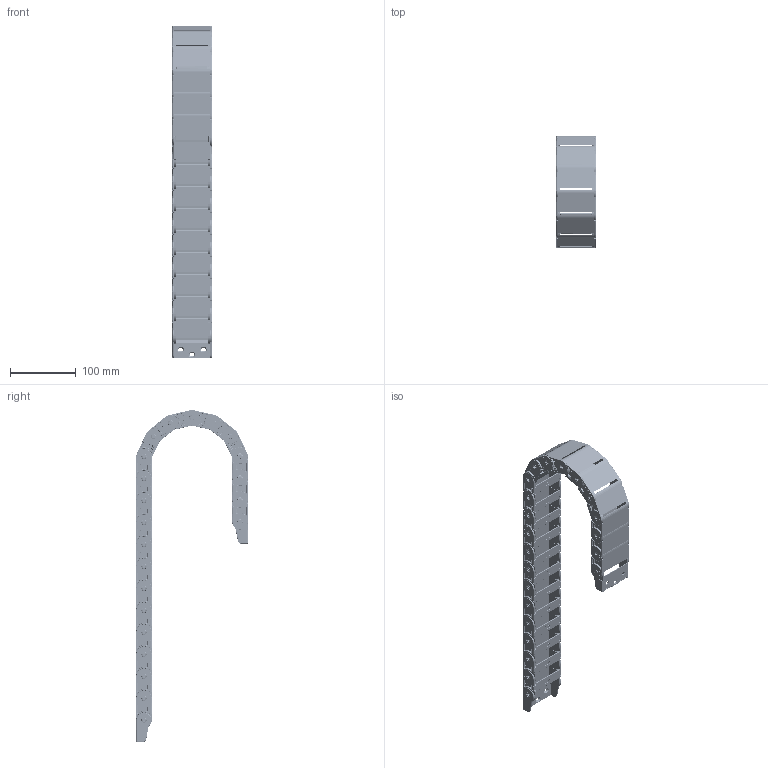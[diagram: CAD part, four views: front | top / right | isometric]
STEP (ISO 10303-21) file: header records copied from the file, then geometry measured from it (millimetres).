
FILE_DESCRIPTION (( 'STEP AP203' ), '1' );
FILE_NAME ('5-J18BF.1.50NR75-3D郪璃芞.STEP', '2016-12-16T06:57:32', ( 'china' ), ( 'china' ), 'SwSTEP 2.0', 'SolidWorks 2014', '' );
FILE_SCHEMA (( 'CONFIG_CONTROL_DESIGN' ));
Length unit declared in the file: millimetre
Products named in the file (6): 18BFX50-FW翋极芞; J18BF-1-50N-DP; 18X50BF-FW-1; J18BF.1.50XJT-N-FW; J18BF.1.50XJT-W-FW; 5-J18BF.1.50NR75-3D郪璃芞
Assembly tree (25 placements, depth 3):
  5-J18BF.1.50NR75-3D郪璃芞
    18X50BF-FW-1  x21
      18BFX50-FW翋极芞
      J18BF-1-50N-DP
    J18BF.1.50XJT-N-FW
    J18BF.1.50XJT-W-FW
Bounding box: 60.85 x 169.9 x 505.86 mm (x, y, z)
Volume: 254605.6 mm3; surface area: 263475.9 mm2
Topology: 44 solids, 44 shells, 8632 faces, 21975 edges, 13763 vertices
Faces by surface type: plane 3562, bspline 2295, cylinder 1970, torus 411, cone 306, sphere 88
Entity records: 22910 total; most frequent: CARTESIAN_POINT 8554, ORIENTED_EDGE 2882, DIRECTION 2549, EDGE_CURVE 1441, VERTEX_POINT 903, AXIS2_PLACEMENT_3D 866, VECTOR 817, LINE 817
